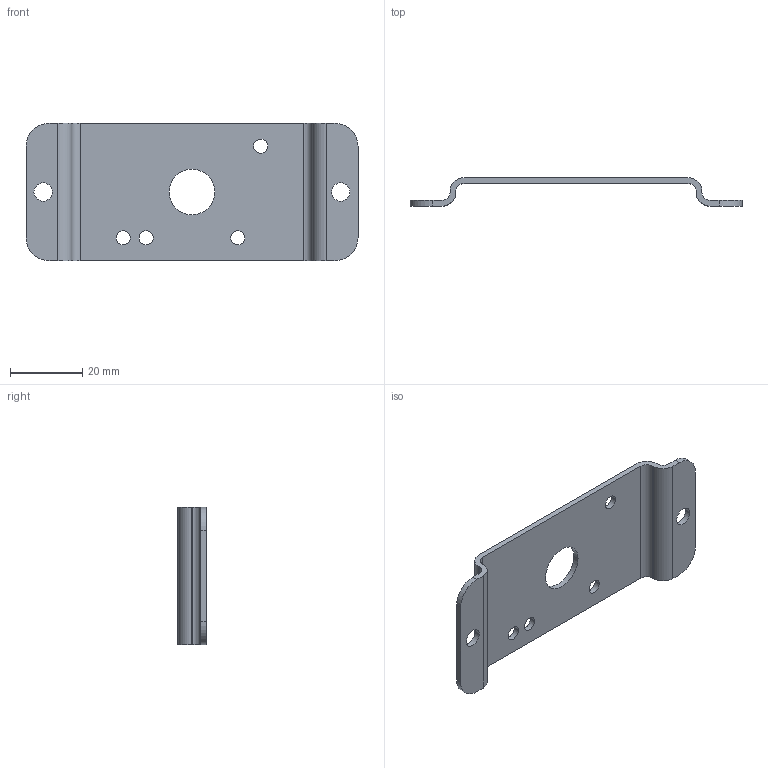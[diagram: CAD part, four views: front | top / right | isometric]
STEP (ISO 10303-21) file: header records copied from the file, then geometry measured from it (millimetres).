
FILE_DESCRIPTION (( 'STEP AP214' ), '1' );
FILE_NAME ('28501.STEP', '2020-09-14T14:27:10', ( '' ), ( '' ), 'SwSTEP 2.0', 'SolidWorks 2020', '' );
FILE_SCHEMA (( 'AUTOMOTIVE_DESIGN' ));
Length unit declared in the file: inch
Products named in the file (1): 28501
Bounding box: 92.1 x 7.95 x 38.1 mm (x, y, z)
Volume: 5663.9 mm3; surface area: 7696.7 mm2
Topology: 1 solids, 1 shells, 40 faces, 114 edges, 76 vertices
Faces by surface type: cylinder 26, plane 14
Entity records: 1398 total; most frequent: DIRECTION 248, CARTESIAN_POINT 231, ORIENTED_EDGE 228, EDGE_CURVE 114, AXIS2_PLACEMENT_3D 93, VERTEX_POINT 76, VECTOR 62, LINE 62
